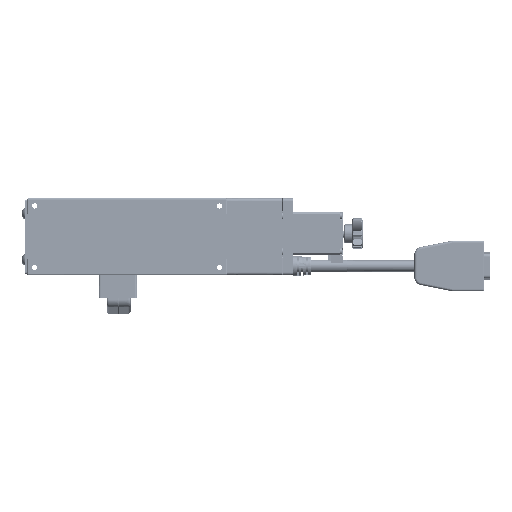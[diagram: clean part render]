
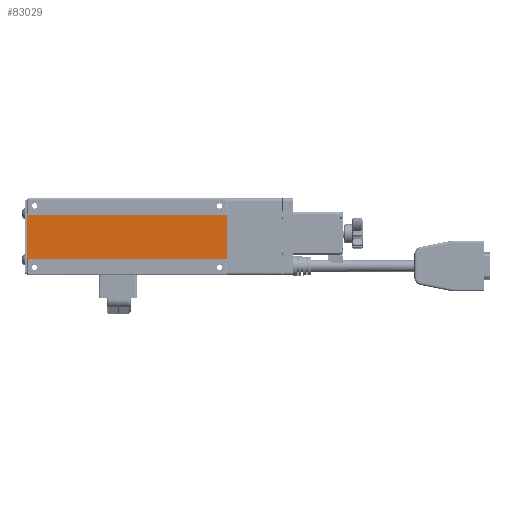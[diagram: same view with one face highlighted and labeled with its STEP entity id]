
A CAD part, front view. The second image highlights one B-rep face of the part: STEP entity #83029.
In plain terms, the highlighted planar face has unit normal (0, -1, 0).
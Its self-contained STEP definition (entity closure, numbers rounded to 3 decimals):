
#370 = ORIENTED_EDGE ( 'NONE', *, *, #243224, .T. ) ;
#2138 = EDGE_CURVE ( 'NONE', #209557, #51142, #177116, .T. ) ;
#6054 = CARTESIAN_POINT ( 'NONE',  ( 14.3, 0.8, 129.8 ) ) ;
#8113 = CARTESIAN_POINT ( 'NONE',  ( -14.3, 0.8, 0.2 ) ) ;
#13601 = CARTESIAN_POINT ( 'NONE',  ( 14.3, 0.8, 129.8 ) ) ;
#14381 = CARTESIAN_POINT ( 'NONE',  ( -4.767, 0.8, 0.2 ) ) ;
#27456 = EDGE_CURVE ( 'NONE', #235347, #209557, #281097, .T. ) ;
#32366 = AXIS2_PLACEMENT_3D ( 'NONE', #81536, #247897, #33873 ) ;
#33873 = DIRECTION ( 'NONE',  ( 1., 0., 0. ) ) ;
#35188 = CARTESIAN_POINT ( 'NONE',  ( 14.3, 0.8, 43.4 ) ) ;
#38409 = FACE_OUTER_BOUND ( 'NONE', #266387, .T. ) ;
#39660 = ORIENTED_EDGE ( 'NONE', *, *, #57664, .T. ) ;
#40747 = VERTEX_POINT ( 'NONE', #47298 ) ;
#41236 = CARTESIAN_POINT ( 'NONE',  ( 14.3, 0.8, 86.6 ) ) ;
#42040 = CARTESIAN_POINT ( 'NONE',  ( -14.3, 0.8, 86.6 ) ) ;
#47298 = CARTESIAN_POINT ( 'NONE',  ( 14.3, 0.8, 0.2 ) ) ;
#51142 = VERTEX_POINT ( 'NONE', #8113 ) ;
#53855 = CARTESIAN_POINT ( 'NONE',  ( -4.767, 0.8, 129.8 ) ) ;
#55353 = CARTESIAN_POINT ( 'NONE',  ( -14.3, 0.8, 129.8 ) ) ;
#57664 = EDGE_CURVE ( 'NONE', #51142, #40747, #222354, .T. ) ;
#66322 = B_SPLINE_CURVE_WITH_KNOTS ( 'NONE', 3,
 ( #292406, #35188, #41236, #199998 ),
 .UNSPECIFIED., .F., .F.,
 ( 4, 4 ),
 ( 0., 1. ),
 .UNSPECIFIED. ) ;
#72527 = ORIENTED_EDGE ( 'NONE', *, *, #27456, .T. ) ;
#81536 = CARTESIAN_POINT ( 'NONE',  ( -14.3, 0.8, 129.8 ) ) ;
#83029 = ADVANCED_FACE ( 'NONE', ( #38409 ), #153996, .F. ) ;
#109844 = CARTESIAN_POINT ( 'NONE',  ( 4.767, 0.8, 0.2 ) ) ;
#126184 = CARTESIAN_POINT ( 'NONE',  ( 4.767, 0.8, 129.8 ) ) ;
#137493 = CARTESIAN_POINT ( 'NONE',  ( -14.3, 0.8, 129.8 ) ) ;
#153996 = PLANE ( 'NONE',  #32366 ) ;
#154575 = CARTESIAN_POINT ( 'NONE',  ( -14.3, 0.8, 43.4 ) ) ;
#156090 = CARTESIAN_POINT ( 'NONE',  ( -14.3, 0.8, 0.2 ) ) ;
#177116 = B_SPLINE_CURVE_WITH_KNOTS ( 'NONE', 3,
 ( #137493, #42040, #154575, #156090 ),
 .UNSPECIFIED., .F., .F.,
 ( 4, 4 ),
 ( 0., 1. ),
 .UNSPECIFIED. ) ;
#199998 = CARTESIAN_POINT ( 'NONE',  ( 14.3, 0.8, 129.8 ) ) ;
#209557 = VERTEX_POINT ( 'NONE', #231415 ) ;
#222354 = B_SPLINE_CURVE_WITH_KNOTS ( 'NONE', 3,
 ( #271612, #14381, #109844, #225410 ),
 .UNSPECIFIED., .F., .F.,
 ( 4, 4 ),
 ( 0., 1. ),
 .UNSPECIFIED. ) ;
#225410 = CARTESIAN_POINT ( 'NONE',  ( 14.3, 0.8, 0.2 ) ) ;
#231415 = CARTESIAN_POINT ( 'NONE',  ( -14.3, 0.8, 129.8 ) ) ;
#235347 = VERTEX_POINT ( 'NONE', #13601 ) ;
#238983 = ORIENTED_EDGE ( 'NONE', *, *, #2138, .T. ) ;
#243224 = EDGE_CURVE ( 'NONE', #40747, #235347, #66322, .T. ) ;
#247897 = DIRECTION ( 'NONE',  ( 0., 1., 0. ) ) ;
#266387 = EDGE_LOOP ( 'NONE', ( #39660, #370, #72527, #238983 ) ) ;
#271612 = CARTESIAN_POINT ( 'NONE',  ( -14.3, 0.8, 0.2 ) ) ;
#281097 = B_SPLINE_CURVE_WITH_KNOTS ( 'NONE', 3,
 ( #6054, #126184, #53855, #55353 ),
 .UNSPECIFIED., .F., .F.,
 ( 4, 4 ),
 ( 0., 1. ),
 .UNSPECIFIED. ) ;
#292406 = CARTESIAN_POINT ( 'NONE',  ( 14.3, 0.8, 0.2 ) ) ;
